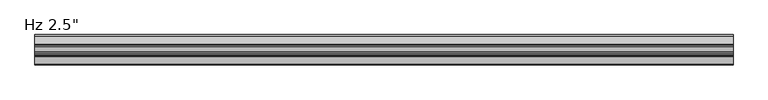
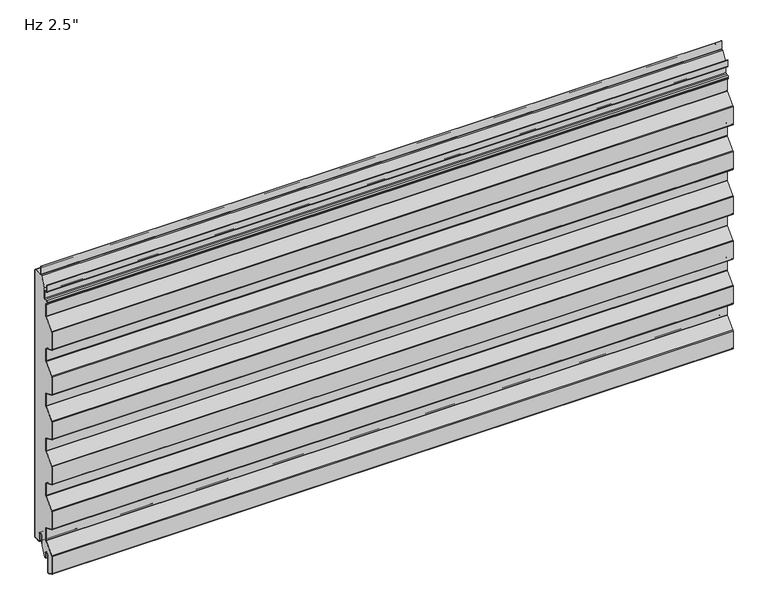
"""IFC4 building model written with IfcOpenShell, lengths in millimetres: plate geometry."""

from ifc_helpers import new_model, si_unit, point, frame, frame_2d, origin, place, context, project, spatial, polyline, circle_curve, trimmed, segment, composite_curve, outline, extrude, source, transform, mapped, element, save


def plate_f76aa271(model_context):
    return source(origin(), model_context, "Body", "SweptSolid", [
        extrude(outline(composite_curve([segment(polyline([(-26.4011912, 19.05), (-26.4011912, -3.1976612), (-36.533822, -23.01875), (-38.6886912, -23.01875), (-38.6886912, -11.90625)]), True, "CONTINUOUS"), segment(trimmed(circle_curve(frame_2d((-43.6574412, -11.90625)), 4.96875), [point((-38.6886912, -11.90625))], [point((-48.6261912, -11.90625))], True, "CARTESIAN"), True, "CONTINUOUS"), segment(polyline([(-48.6261912, -11.90625), (-48.6261912, -48.8194049)]), True, "CONTINUOUS"), segment(trimmed(circle_curve(frame_2d((-50.0074412, -48.8194049)), 1.38125), [point((-48.6261912, -48.8194049))], [point((-50.5666208, -50.0824052))], False, "CARTESIAN"), True, "CONTINUOUS"), segment(polyline([(-50.5666208, -50.0824052), (-61.6779296, -45.1629946)]), True, "CONTINUOUS"), segment(trimmed(circle_curve(frame_2d((-61.11875, -43.8999943)), 1.38125), [point((-61.6779296, -45.1629946))], [point((-62.5, -43.8999943))], False, "CARTESIAN"), True, "CONTINUOUS"), segment(polyline([(-62.5, -43.8999943), (-62.5, -5.0536946)]), True, "CONTINUOUS"), segment(trimmed(circle_curve(frame_2d((-60.4012, -5.0536946)), 2.0988), [point((-62.5, -5.0536946))], [point((-61.9092077, -3.5939431))], False, "CARTESIAN"), True, "CONTINUOUS"), segment(polyline([(-61.9092077, -3.5939431), (-41.7145567, 17.2682996)]), True, "CONTINUOUS"), segment(trimmed(circle_curve(frame_2d((-43.5737, 19.0679503)), 2.5875), [point((-41.7145567, 17.2682996))], [point((-40.9862, 19.0679503))], True, "CARTESIAN"), True, "CONTINUOUS"), segment(polyline([(-40.9862, 19.0679503), (-40.9862, 45.5917981)]), True, "CONTINUOUS"), segment(trimmed(circle_curve(frame_2d((-43.5737, 45.5917981)), 2.5875), [point((-40.9862, 45.5917981))], [point((-42.5261871, 47.9577806))], True, "CARTESIAN"), True, "CONTINUOUS"), segment(polyline([(-42.5261871, 47.9577806), (-61.6779296, 56.4370054)]), True, "CONTINUOUS"), segment(trimmed(circle_curve(frame_2d((-61.11875, 57.7000057)), 1.38125), [point((-61.6779296, 56.4370054))], [point((-62.5, 57.7000057))], False, "CARTESIAN"), True, "CONTINUOUS"), segment(polyline([(-62.5, 57.7000057), (-62.5, 96.8367131)]), True, "CONTINUOUS"), segment(trimmed(circle_curve(frame_2d((-61.11875, 96.8367131)), 1.38125), [point((-62.5, 96.8367131))], [point((-62.1111912, 97.7973962))], False, "CARTESIAN"), True, "CONTINUOUS"), segment(polyline([(-62.1111912, 97.7973962), (-41.7145567, 118.8682996)]), True, "CONTINUOUS"), segment(trimmed(circle_curve(frame_2d((-43.5737, 120.6679503)), 2.5875), [point((-41.7145567, 118.8682996))], [point((-40.9862, 120.6679503))], True, "CARTESIAN"), True, "CONTINUOUS"), segment(polyline([(-40.9862, 120.6679503), (-40.9862, 147.1917981)]), True, "CONTINUOUS"), segment(trimmed(circle_curve(frame_2d((-43.5737, 147.1917981)), 2.5875), [point((-40.9862, 147.1917981))], [point((-42.5261871, 149.5577806))], True, "CARTESIAN"), True, "CONTINUOUS"), segment(polyline([(-42.5261871, 149.5577806), (-61.6779296, 158.0370054)]), True, "CONTINUOUS"), segment(trimmed(circle_curve(frame_2d((-61.11875, 159.3000057)), 1.38125), [point((-61.6779296, 158.0370054))], [point((-62.5, 159.3000057))], False, "CARTESIAN"), True, "CONTINUOUS"), segment(polyline([(-62.5, 159.3000057), (-62.5, 198.4367131)]), True, "CONTINUOUS"), segment(trimmed(circle_curve(frame_2d((-61.11875, 198.4367131)), 1.38125), [point((-62.5, 198.4367131))], [point((-62.1111912, 199.3973962))], False, "CARTESIAN"), True, "CONTINUOUS"), segment(polyline([(-62.1111912, 199.3973962), (-41.7145567, 220.4682996)]), True, "CONTINUOUS"), segment(trimmed(circle_curve(frame_2d((-43.5737, 222.2679503)), 2.5875), [point((-41.7145567, 220.4682996))], [point((-40.9862, 222.2679503))], True, "CARTESIAN"), True, "CONTINUOUS"), segment(polyline([(-40.9862, 222.2679503), (-40.9862, 248.7917981)]), True, "CONTINUOUS"), segment(trimmed(circle_curve(frame_2d((-43.5737, 248.7917981)), 2.5875), [point((-40.9862, 248.7917981))], [point((-42.5261871, 251.1577806))], True, "CARTESIAN"), True, "CONTINUOUS"), segment(polyline([(-42.5261871, 251.1577806), (-61.6779296, 259.6370054)]), True, "CONTINUOUS"), segment(trimmed(circle_curve(frame_2d((-61.11875, 260.9000057)), 1.38125), [point((-61.6779296, 259.6370054))], [point((-62.5, 260.9000057))], False, "CARTESIAN"), True, "CONTINUOUS"), segment(polyline([(-62.5, 260.9000057), (-62.5, 300.0367131)]), True, "CONTINUOUS"), segment(trimmed(circle_curve(frame_2d((-61.11875, 300.0367131)), 1.38125), [point((-62.5, 300.0367131))], [point((-62.1111912, 300.9973962))], False, "CARTESIAN"), True, "CONTINUOUS"), segment(polyline([(-62.1111912, 300.9973962), (-41.7145567, 322.0682996)]), True, "CONTINUOUS"), segment(trimmed(circle_curve(frame_2d((-43.5737, 323.8679503)), 2.5875), [point((-41.7145567, 322.0682996))], [point((-40.9862, 323.8679503))], True, "CARTESIAN"), True, "CONTINUOUS"), segment(polyline([(-40.9862, 323.8679503), (-40.9862, 350.3917981)]), True, "CONTINUOUS"), segment(trimmed(circle_curve(frame_2d((-43.5737, 350.3917981)), 2.5875), [point((-40.9862, 350.3917981))], [point((-42.5261871, 352.7577806))], True, "CARTESIAN"), True, "CONTINUOUS"), segment(polyline([(-42.5261871, 352.7577806), (-61.6779296, 361.2370054)]), True, "CONTINUOUS"), segment(trimmed(circle_curve(frame_2d((-61.11875, 362.5000057)), 1.38125), [point((-61.6779296, 361.2370054))], [point((-62.5, 362.5000057))], False, "CARTESIAN"), True, "CONTINUOUS"), segment(polyline([(-62.5, 362.5000057), (-62.5, 401.6367131)]), True, "CONTINUOUS"), segment(trimmed(circle_curve(frame_2d((-61.11875, 401.6367131)), 1.38125), [point((-62.5, 401.6367131))], [point((-62.1111912, 402.5973962))], False, "CARTESIAN"), True, "CONTINUOUS"), segment(polyline([(-62.1111912, 402.5973962), (-41.7145567, 423.6682996)]), True, "CONTINUOUS"), segment(trimmed(circle_curve(frame_2d((-43.5737, 425.4679503)), 2.5875), [point((-41.7145567, 423.6682996))], [point((-40.9862, 425.4679503))], True, "CARTESIAN"), True, "CONTINUOUS"), segment(polyline([(-40.9862, 425.4679503), (-40.9862, 451.9917981)]), True, "CONTINUOUS"), segment(trimmed(circle_curve(frame_2d((-43.5737, 451.9917981)), 2.5875), [point((-40.9862, 451.9917981))], [point((-42.5261871, 454.3577806))], True, "CARTESIAN"), True, "CONTINUOUS"), segment(polyline([(-42.5261871, 454.3577806), (-61.6779296, 462.8370054)]), True, "CONTINUOUS"), segment(trimmed(circle_curve(frame_2d((-61.11875, 464.1000057)), 1.38125), [point((-61.6779296, 462.8370054))], [point((-62.5, 464.1000057))], False, "CARTESIAN"), True, "CONTINUOUS"), segment(polyline([(-62.5, 464.1000057), (-62.5, 503.2367131)]), True, "CONTINUOUS"), segment(trimmed(circle_curve(frame_2d((-61.11875, 503.2367131)), 1.38125), [point((-62.5, 503.2367131))], [point((-62.1111912, 504.1973962))], False, "CARTESIAN"), True, "CONTINUOUS"), segment(polyline([(-62.1111912, 504.1973962), (-41.7145567, 525.2682996)]), True, "CONTINUOUS"), segment(trimmed(circle_curve(frame_2d((-43.5737, 527.0679503)), 2.5875), [point((-41.7145567, 525.2682996))], [point((-40.9862, 527.0679503))], True, "CARTESIAN"), True, "CONTINUOUS"), segment(polyline([(-40.9862, 527.0679503), (-40.9862, 553.5917981)]), True, "CONTINUOUS"), segment(trimmed(circle_curve(frame_2d((-43.5737, 553.5917981)), 2.5875), [point((-40.9862, 553.5917981))], [point((-42.5261871, 555.9577806))], True, "CARTESIAN"), True, "CONTINUOUS"), segment(polyline([(-42.5261871, 555.9577806), (-44.2166208, 556.7062016)]), True, "CONTINUOUS"), segment(trimmed(circle_curve(frame_2d((-43.6574412, 557.9692019)), 1.38125), [point((-44.2166208, 556.7062016))], [point((-45.0386912, 557.9692019))], False, "CARTESIAN"), True, "CONTINUOUS"), segment(polyline([(-45.0386912, 557.9692019), (-45.0386912, 560.2967085)]), True, "CONTINUOUS"), segment(trimmed(circle_curve(frame_2d((-43.6574412, 560.2967085)), 1.38125), [point((-45.0386912, 560.2967085))], [point((-43.7297302, 561.6760655))], False, "CARTESIAN"), True, "CONTINUOUS"), segment(polyline([(-43.7297302, 561.6760655), (-37.9657719, 561.9781418)]), True, "CONTINUOUS"), segment(trimmed(circle_curve(frame_2d((-38.1011912, 564.5620957)), 2.5875), [point((-37.9657719, 561.9781418))], [point((-35.5136912, 564.5620957))], True, "CARTESIAN"), True, "CONTINUOUS"), segment(polyline([(-35.5136912, 564.5620957), (-35.5136912, 586.9892934), (-24.8719682, 607.80625), (-2.3824412, 607.80625)]), True, "CONTINUOUS"), segment(trimmed(circle_curve(frame_2d((-2.3824412, 606.425)), 1.38125), [point((-2.3824412, 607.80625))], [point((-1.0011912, 606.425))], False, "CARTESIAN"), True, "CONTINUOUS"), segment(polyline([(-1.0011912, 606.425), (-1.0011912, 3.175)]), True, "CONTINUOUS"), segment(trimmed(circle_curve(frame_2d((-2.3824412, 3.175)), 1.38125), [point((-1.0011912, 3.175))], [point((-2.3824412, 1.79375))], False, "CARTESIAN"), True, "CONTINUOUS"), segment(polyline([(-2.3824412, 1.79375), (-15.0824412, 1.79375)]), True, "CONTINUOUS"), segment(trimmed(circle_curve(frame_2d((-15.0824412, 3.175)), 1.38125), [point((-15.0824412, 1.79375))], [point((-16.4636912, 3.175))], False, "CARTESIAN"), True, "CONTINUOUS"), segment(polyline([(-16.4636912, 3.175), (-16.4636912, 19.05)]), True, "CONTINUOUS"), segment(trimmed(circle_curve(frame_2d((-21.4324412, 19.05)), 4.96875), [point((-16.4636912, 19.05))], [point((-26.4011912, 19.05))], True, "CARTESIAN"), True, "CONTINUOUS")], self_intersect=False)), frame((-730.0, 0.0, 0.0), z_axis=(1.0, 0.0, 0.0), x_axis=(0.0, 1.0, 0.0)), (0.0, 0.0, 1.0), 1460.0),
        extrude(outline(composite_curve([segment(polyline([(-25.4, 0.79375), (-26.4, 0.79375), (-26.4, 19.05)]), True, "CONTINUOUS"), segment(trimmed(circle_curve(frame_2d((-21.43125, 19.05)), 4.96875), [point((-26.4, 19.05))], [point((-16.4625, 19.05))], False, "CARTESIAN"), True, "CONTINUOUS"), segment(polyline([(-16.4625, 19.05), (-16.4625, 3.175)]), True, "CONTINUOUS"), segment(trimmed(circle_curve(frame_2d((-15.08125, 3.175)), 1.38125), [point((-16.4625, 3.175))], [point((-15.08125, 1.79375))], True, "CARTESIAN"), True, "CONTINUOUS"), segment(polyline([(-15.08125, 1.79375), (-2.38125, 1.79375)]), True, "CONTINUOUS"), segment(trimmed(circle_curve(frame_2d((-2.38125, 3.175)), 1.38125), [point((-2.38125, 1.79375))], [point((-1.0, 3.175))], True, "CARTESIAN"), True, "CONTINUOUS"), segment(polyline([(-1.0, 3.175), (-1.0, 606.425)]), True, "CONTINUOUS"), segment(trimmed(circle_curve(frame_2d((-2.38125, 606.425)), 1.38125), [point((-1.0, 606.425))], [point((-2.38125, 607.80625))], True, "CARTESIAN"), True, "CONTINUOUS"), segment(polyline([(-2.38125, 607.80625), (-19.446875, 607.80625)]), True, "CONTINUOUS"), segment(trimmed(circle_curve(frame_2d((-19.446875, 610.39375)), 2.5875), [point((-19.446875, 607.80625))], [point((-22.034375, 610.39375))], False, "CARTESIAN"), True, "CONTINUOUS"), segment(polyline([(-22.034375, 610.39375), (-22.034375, 627.85625), (-21.034375, 627.85625), (-21.034375, 610.39375)]), True, "CONTINUOUS"), segment(trimmed(circle_curve(frame_2d((-19.446875, 610.39375)), 1.5875), [point((-21.034375, 610.39375))], [point((-19.446875, 608.80625))], True, "CARTESIAN"), True, "CONTINUOUS"), segment(polyline([(-19.446875, 608.80625), (-2.38125, 608.80625)]), True, "CONTINUOUS"), segment(trimmed(circle_curve(frame_2d((-2.38125, 606.425)), 2.38125), [point((-2.38125, 608.80625))], [point((0.0, 606.425))], False, "CARTESIAN"), True, "CONTINUOUS"), segment(polyline([(0.0, 606.425), (0.0, 3.175)]), True, "CONTINUOUS"), segment(trimmed(circle_curve(frame_2d((-2.38125, 3.175)), 2.38125), [point((0.0, 3.175))], [point((-2.38125, 0.79375))], False, "CARTESIAN"), True, "CONTINUOUS"), segment(polyline([(-2.38125, 0.79375), (-15.08125, 0.79375)]), True, "CONTINUOUS"), segment(trimmed(circle_curve(frame_2d((-15.08125, 3.175)), 2.38125), [point((-15.08125, 0.79375))], [point((-17.4625, 3.175))], False, "CARTESIAN"), True, "CONTINUOUS"), segment(polyline([(-17.4625, 3.175), (-17.4625, 19.05)]), True, "CONTINUOUS"), segment(trimmed(circle_curve(frame_2d((-21.43125, 19.05)), 3.96875), [point((-17.4625, 19.05))], [point((-25.4, 19.05))], True, "CARTESIAN"), True, "CONTINUOUS"), segment(polyline([(-25.4, 19.05), (-25.4, 0.79375)]), True, "CONTINUOUS")], self_intersect=False)), frame((-730.0, 0.0, 0.0), z_axis=(1.0, 0.0, 0.0), x_axis=(0.0, 1.0, 0.0)), (0.0, 0.0, 1.0), 1460.0),
        extrude(outline(composite_curve([segment(polyline([(-47.6261912, -11.90625), (-47.6261912, -48.8194049)]), True, "CONTINUOUS"), segment(trimmed(circle_curve(frame_2d((-50.0074412, -48.8194049)), 2.38125), [point((-47.6261912, -48.8194049))], [point((-50.9714567, -50.9967946))], False, "CARTESIAN"), True, "CONTINUOUS"), segment(polyline([(-50.9714567, -50.9967946), (-62.0827655, -46.0773839)]), True, "CONTINUOUS"), segment(trimmed(circle_curve(frame_2d((-61.11875, -43.8999943)), 2.38125), [point((-62.0827655, -46.0773839))], [point((-63.5, -43.8999943))], False, "CARTESIAN"), True, "CONTINUOUS"), segment(polyline([(-63.5, -43.8999943), (-63.5, -5.0536946)]), True, "CONTINUOUS"), segment(trimmed(circle_curve(frame_2d((-60.4012, -5.0536946)), 3.0988), [point((-63.5, -5.0536946))], [point((-62.6277172, -2.8984259))], False, "CARTESIAN"), True, "CONTINUOUS"), segment(polyline([(-62.6277172, -2.8984259), (-42.4330662, 17.9638168)]), True, "CONTINUOUS"), segment(trimmed(circle_curve(frame_2d((-43.5737, 19.0679503)), 1.5875), [point((-42.4330662, 17.9638168))], [point((-41.9862, 19.0679503))], True, "CARTESIAN"), True, "CONTINUOUS"), segment(polyline([(-41.9862, 19.0679503), (-41.9862, 45.5917981)]), True, "CONTINUOUS"), segment(trimmed(circle_curve(frame_2d((-43.5737, 45.5917981)), 1.5875), [point((-41.9862, 45.5917981))], [point((-42.931023, 47.0433912))], True, "CARTESIAN"), True, "CONTINUOUS"), segment(polyline([(-42.931023, 47.0433912), (-62.0827655, 55.5226161)]), True, "CONTINUOUS"), segment(trimmed(circle_curve(frame_2d((-61.11875, 57.7000057)), 2.38125), [point((-62.0827655, 55.5226161))], [point((-63.5, 57.7000057))], False, "CARTESIAN"), True, "CONTINUOUS"), segment(polyline([(-63.5, 57.7000057), (-63.5, 96.8367131)]), True, "CONTINUOUS"), segment(trimmed(circle_curve(frame_2d((-61.11875, 96.8367131)), 2.38125), [point((-63.5, 96.8367131))], [point((-62.8297007, 98.4929134))], False, "CARTESIAN"), True, "CONTINUOUS"), segment(polyline([(-62.8297007, 98.4929134), (-42.4330662, 119.5638168)]), True, "CONTINUOUS"), segment(trimmed(circle_curve(frame_2d((-43.5737, 120.6679503)), 1.5875), [point((-42.4330662, 119.5638168))], [point((-41.9862, 120.6679503))], True, "CARTESIAN"), True, "CONTINUOUS"), segment(polyline([(-41.9862, 120.6679503), (-41.9862, 147.1917981)]), True, "CONTINUOUS"), segment(trimmed(circle_curve(frame_2d((-43.5737, 147.1917981)), 1.5875), [point((-41.9862, 147.1917981))], [point((-42.931023, 148.6433912))], True, "CARTESIAN"), True, "CONTINUOUS"), segment(polyline([(-42.931023, 148.6433912), (-62.0827655, 157.1226161)]), True, "CONTINUOUS"), segment(trimmed(circle_curve(frame_2d((-61.11875, 159.3000057)), 2.38125), [point((-62.0827655, 157.1226161))], [point((-63.5, 159.3000057))], False, "CARTESIAN"), True, "CONTINUOUS"), segment(polyline([(-63.5, 159.3000057), (-63.5, 198.4367131)]), True, "CONTINUOUS"), segment(trimmed(circle_curve(frame_2d((-61.11875, 198.4367131)), 2.38125), [point((-63.5, 198.4367131))], [point((-62.8297007, 200.0929134))], False, "CARTESIAN"), True, "CONTINUOUS"), segment(polyline([(-62.8297007, 200.0929134), (-42.4330662, 221.1638168)]), True, "CONTINUOUS"), segment(trimmed(circle_curve(frame_2d((-43.5737, 222.2679503)), 1.5875), [point((-42.4330662, 221.1638168))], [point((-41.9862, 222.2679503))], True, "CARTESIAN"), True, "CONTINUOUS"), segment(polyline([(-41.9862, 222.2679503), (-41.9862, 248.7917981)]), True, "CONTINUOUS"), segment(trimmed(circle_curve(frame_2d((-43.5737, 248.7917981)), 1.5875), [point((-41.9862, 248.7917981))], [point((-42.931023, 250.2433912))], True, "CARTESIAN"), True, "CONTINUOUS"), segment(polyline([(-42.931023, 250.2433912), (-62.0827655, 258.7226161)]), True, "CONTINUOUS"), segment(trimmed(circle_curve(frame_2d((-61.11875, 260.9000057)), 2.38125), [point((-62.0827655, 258.7226161))], [point((-63.5, 260.9000057))], False, "CARTESIAN"), True, "CONTINUOUS"), segment(polyline([(-63.5, 260.9000057), (-63.5, 300.0367131)]), True, "CONTINUOUS"), segment(trimmed(circle_curve(frame_2d((-61.11875, 300.0367131)), 2.38125), [point((-63.5, 300.0367131))], [point((-62.8297007, 301.6929134))], False, "CARTESIAN"), True, "CONTINUOUS"), segment(polyline([(-62.8297007, 301.6929134), (-42.4330662, 322.7638168)]), True, "CONTINUOUS"), segment(trimmed(circle_curve(frame_2d((-43.5737, 323.8679503)), 1.5875), [point((-42.4330662, 322.7638168))], [point((-41.9862, 323.8679503))], True, "CARTESIAN"), True, "CONTINUOUS"), segment(polyline([(-41.9862, 323.8679503), (-41.9862, 350.3917981)]), True, "CONTINUOUS"), segment(trimmed(circle_curve(frame_2d((-43.5737, 350.3917981)), 1.5875), [point((-41.9862, 350.3917981))], [point((-42.931023, 351.8433912))], True, "CARTESIAN"), True, "CONTINUOUS"), segment(polyline([(-42.931023, 351.8433912), (-62.0827655, 360.3226161)]), True, "CONTINUOUS"), segment(trimmed(circle_curve(frame_2d((-61.11875, 362.5000057)), 2.38125), [point((-62.0827655, 360.3226161))], [point((-63.5, 362.5000057))], False, "CARTESIAN"), True, "CONTINUOUS"), segment(polyline([(-63.5, 362.5000057), (-63.5, 401.6367131)]), True, "CONTINUOUS"), segment(trimmed(circle_curve(frame_2d((-61.11875, 401.6367131)), 2.38125), [point((-63.5, 401.6367131))], [point((-62.8297007, 403.2929134))], False, "CARTESIAN"), True, "CONTINUOUS"), segment(polyline([(-62.8297007, 403.2929134), (-42.4330662, 424.3638168)]), True, "CONTINUOUS"), segment(trimmed(circle_curve(frame_2d((-43.5737, 425.4679503)), 1.5875), [point((-42.4330662, 424.3638168))], [point((-41.9862, 425.4679503))], True, "CARTESIAN"), True, "CONTINUOUS"), segment(polyline([(-41.9862, 425.4679503), (-41.9862, 451.9917981)]), True, "CONTINUOUS"), segment(trimmed(circle_curve(frame_2d((-43.5737, 451.9917981)), 1.5875), [point((-41.9862, 451.9917981))], [point((-42.931023, 453.4433912))], True, "CARTESIAN"), True, "CONTINUOUS"), segment(polyline([(-42.931023, 453.4433912), (-62.0827655, 461.9226161)]), True, "CONTINUOUS"), segment(trimmed(circle_curve(frame_2d((-61.11875, 464.1000057)), 2.38125), [point((-62.0827655, 461.9226161))], [point((-63.5, 464.1000057))], False, "CARTESIAN"), True, "CONTINUOUS"), segment(polyline([(-63.5, 464.1000057), (-63.5, 503.2367131)]), True, "CONTINUOUS"), segment(trimmed(circle_curve(frame_2d((-61.11875, 503.2367131)), 2.38125), [point((-63.5, 503.2367131))], [point((-62.8297007, 504.8929134))], False, "CARTESIAN"), True, "CONTINUOUS"), segment(polyline([(-62.8297007, 504.8929134), (-42.4330662, 525.9638168)]), True, "CONTINUOUS"), segment(trimmed(circle_curve(frame_2d((-43.5737, 527.0679503)), 1.5875), [point((-42.4330662, 525.9638168))], [point((-41.9862, 527.0679503))], True, "CARTESIAN"), True, "CONTINUOUS"), segment(polyline([(-41.9862, 527.0679503), (-41.9862, 553.5917981)]), True, "CONTINUOUS"), segment(trimmed(circle_curve(frame_2d((-43.5737, 553.5917981)), 1.5875), [point((-41.9862, 553.5917981))], [point((-42.931023, 555.0433912))], True, "CARTESIAN"), True, "CONTINUOUS"), segment(polyline([(-42.931023, 555.0433912), (-44.6214567, 555.7918123)]), True, "CONTINUOUS"), segment(trimmed(circle_curve(frame_2d((-43.6574412, 557.9692019)), 2.38125), [point((-44.6214567, 555.7918123))], [point((-46.0386912, 557.9692019))], False, "CARTESIAN"), True, "CONTINUOUS"), segment(polyline([(-46.0386912, 557.9692019), (-46.0386912, 560.2967085)]), True, "CONTINUOUS"), segment(trimmed(circle_curve(frame_2d((-43.6574412, 560.2967085)), 2.38125), [point((-46.0386912, 560.2967085))], [point((-43.7820662, 562.6746951))], False, "CARTESIAN"), True, "CONTINUOUS"), segment(polyline([(-43.7820662, 562.6746951), (-38.0181078, 562.9767713)]), True, "CONTINUOUS"), segment(trimmed(circle_curve(frame_2d((-38.1011912, 564.5620957)), 1.5875), [point((-38.0181078, 562.9767713))], [point((-36.5136912, 564.5620957))], True, "CARTESIAN"), True, "CONTINUOUS"), segment(polyline([(-36.5136912, 564.5620957), (-36.5136912, 579.4375)]), True, "CONTINUOUS"), segment(trimmed(circle_curve(frame_2d((-38.1011912, 579.4375)), 1.5875), [point((-36.5136912, 579.4375))], [point((-38.1011912, 581.025))], True, "CARTESIAN"), True, "CONTINUOUS"), segment(polyline([(-38.1011912, 581.025), (-41.6730662, 581.025)]), True, "CONTINUOUS"), segment(trimmed(circle_curve(frame_2d((-41.6730662, 583.40625)), 2.38125), [point((-41.6730662, 581.025))], [point((-44.0543162, 583.40625))], False, "CARTESIAN"), True, "CONTINUOUS"), segment(polyline([(-44.0543162, 583.40625), (-44.0543162, 597.69375), (-43.0543162, 597.69375), (-43.0543162, 583.40625)]), True, "CONTINUOUS"), segment(trimmed(circle_curve(frame_2d((-41.6730662, 583.40625)), 1.38125), [point((-43.0543162, 583.40625))], [point((-41.6730662, 582.025))], True, "CARTESIAN"), True, "CONTINUOUS"), segment(polyline([(-41.6730662, 582.025), (-38.1011912, 582.025)]), True, "CONTINUOUS"), segment(trimmed(circle_curve(frame_2d((-38.1011912, 579.4375)), 2.5875), [point((-38.1011912, 582.025))], [point((-35.5136912, 579.4375))], False, "CARTESIAN"), True, "CONTINUOUS"), segment(polyline([(-35.5136912, 579.4375), (-35.5136912, 564.5620957)]), True, "CONTINUOUS"), segment(trimmed(circle_curve(frame_2d((-38.1011912, 564.5620957)), 2.5875), [point((-35.5136912, 564.5620957))], [point((-37.9657719, 561.9781418))], False, "CARTESIAN"), True, "CONTINUOUS"), segment(polyline([(-37.9657719, 561.9781418), (-43.7297302, 561.6760655)]), True, "CONTINUOUS"), segment(trimmed(circle_curve(frame_2d((-43.6574412, 560.2967085)), 1.38125), [point((-43.7297302, 561.6760655))], [point((-45.0386912, 560.2967085))], True, "CARTESIAN"), True, "CONTINUOUS"), segment(polyline([(-45.0386912, 560.2967085), (-45.0386912, 557.9692019)]), True, "CONTINUOUS"), segment(trimmed(circle_curve(frame_2d((-43.6574412, 557.9692019)), 1.38125), [point((-45.0386912, 557.9692019))], [point((-44.2166208, 556.7062016))], True, "CARTESIAN"), True, "CONTINUOUS"), segment(polyline([(-44.2166208, 556.7062016), (-42.5261871, 555.9577806)]), True, "CONTINUOUS"), segment(trimmed(circle_curve(frame_2d((-43.5737, 553.5917981)), 2.5875), [point((-42.5261871, 555.9577806))], [point((-40.9862, 553.5917981))], False, "CARTESIAN"), True, "CONTINUOUS"), segment(polyline([(-40.9862, 553.5917981), (-40.9862, 527.0679503)]), True, "CONTINUOUS"), segment(trimmed(circle_curve(frame_2d((-43.5737, 527.0679503)), 2.5875), [point((-40.9862, 527.0679503))], [point((-41.7145567, 525.2682996))], False, "CARTESIAN"), True, "CONTINUOUS"), segment(polyline([(-41.7145567, 525.2682996), (-62.1111912, 504.1973962)]), True, "CONTINUOUS"), segment(trimmed(circle_curve(frame_2d((-61.11875, 503.2367131)), 1.38125), [point((-62.1111912, 504.1973962))], [point((-62.5, 503.2367131))], True, "CARTESIAN"), True, "CONTINUOUS"), segment(polyline([(-62.5, 503.2367131), (-62.5, 464.1000057)]), True, "CONTINUOUS"), segment(trimmed(circle_curve(frame_2d((-61.11875, 464.1000057)), 1.38125), [point((-62.5, 464.1000057))], [point((-61.6779296, 462.8370054))], True, "CARTESIAN"), True, "CONTINUOUS"), segment(polyline([(-61.6779296, 462.8370054), (-42.5261871, 454.3577806)]), True, "CONTINUOUS"), segment(trimmed(circle_curve(frame_2d((-43.5737, 451.9917981)), 2.5875), [point((-42.5261871, 454.3577806))], [point((-40.9862, 451.9917981))], False, "CARTESIAN"), True, "CONTINUOUS"), segment(polyline([(-40.9862, 451.9917981), (-40.9862, 425.4679503)]), True, "CONTINUOUS"), segment(trimmed(circle_curve(frame_2d((-43.5737, 425.4679503)), 2.5875), [point((-40.9862, 425.4679503))], [point((-41.7145567, 423.6682996))], False, "CARTESIAN"), True, "CONTINUOUS"), segment(polyline([(-41.7145567, 423.6682996), (-62.1111912, 402.5973962)]), True, "CONTINUOUS"), segment(trimmed(circle_curve(frame_2d((-61.11875, 401.6367131)), 1.38125), [point((-62.1111912, 402.5973962))], [point((-62.5, 401.6367131))], True, "CARTESIAN"), True, "CONTINUOUS"), segment(polyline([(-62.5, 401.6367131), (-62.5, 362.5000057)]), True, "CONTINUOUS"), segment(trimmed(circle_curve(frame_2d((-61.11875, 362.5000057)), 1.38125), [point((-62.5, 362.5000057))], [point((-61.6779296, 361.2370054))], True, "CARTESIAN"), True, "CONTINUOUS"), segment(polyline([(-61.6779296, 361.2370054), (-42.5261871, 352.7577806)]), True, "CONTINUOUS"), segment(trimmed(circle_curve(frame_2d((-43.5737, 350.3917981)), 2.5875), [point((-42.5261871, 352.7577806))], [point((-40.9862, 350.3917981))], False, "CARTESIAN"), True, "CONTINUOUS"), segment(polyline([(-40.9862, 350.3917981), (-40.9862, 323.8679503)]), True, "CONTINUOUS"), segment(trimmed(circle_curve(frame_2d((-43.5737, 323.8679503)), 2.5875), [point((-40.9862, 323.8679503))], [point((-41.7145567, 322.0682996))], False, "CARTESIAN"), True, "CONTINUOUS"), segment(polyline([(-41.7145567, 322.0682996), (-62.1111912, 300.9973962)]), True, "CONTINUOUS"), segment(trimmed(circle_curve(frame_2d((-61.11875, 300.0367131)), 1.38125), [point((-62.1111912, 300.9973962))], [point((-62.5, 300.0367131))], True, "CARTESIAN"), True, "CONTINUOUS"), segment(polyline([(-62.5, 300.0367131), (-62.5, 260.9000057)]), True, "CONTINUOUS"), segment(trimmed(circle_curve(frame_2d((-61.11875, 260.9000057)), 1.38125), [point((-62.5, 260.9000057))], [point((-61.6779296, 259.6370054))], True, "CARTESIAN"), True, "CONTINUOUS"), segment(polyline([(-61.6779296, 259.6370054), (-42.5261871, 251.1577806)]), True, "CONTINUOUS"), segment(trimmed(circle_curve(frame_2d((-43.5737, 248.7917981)), 2.5875), [point((-42.5261871, 251.1577806))], [point((-40.9862, 248.7917981))], False, "CARTESIAN"), True, "CONTINUOUS"), segment(polyline([(-40.9862, 248.7917981), (-40.9862, 222.2679503)]), True, "CONTINUOUS"), segment(trimmed(circle_curve(frame_2d((-43.5737, 222.2679503)), 2.5875), [point((-40.9862, 222.2679503))], [point((-41.7145567, 220.4682996))], False, "CARTESIAN"), True, "CONTINUOUS"), segment(polyline([(-41.7145567, 220.4682996), (-62.1111912, 199.3973962)]), True, "CONTINUOUS"), segment(trimmed(circle_curve(frame_2d((-61.11875, 198.4367131)), 1.38125), [point((-62.1111912, 199.3973962))], [point((-62.5, 198.4367131))], True, "CARTESIAN"), True, "CONTINUOUS"), segment(polyline([(-62.5, 198.4367131), (-62.5, 159.3000057)]), True, "CONTINUOUS"), segment(trimmed(circle_curve(frame_2d((-61.11875, 159.3000057)), 1.38125), [point((-62.5, 159.3000057))], [point((-61.6779296, 158.0370054))], True, "CARTESIAN"), True, "CONTINUOUS"), segment(polyline([(-61.6779296, 158.0370054), (-42.5261871, 149.5577806)]), True, "CONTINUOUS"), segment(trimmed(circle_curve(frame_2d((-43.5737, 147.1917981)), 2.5875), [point((-42.5261871, 149.5577806))], [point((-40.9862, 147.1917981))], False, "CARTESIAN"), True, "CONTINUOUS"), segment(polyline([(-40.9862, 147.1917981), (-40.9862, 120.6679503)]), True, "CONTINUOUS"), segment(trimmed(circle_curve(frame_2d((-43.5737, 120.6679503)), 2.5875), [point((-40.9862, 120.6679503))], [point((-41.7145567, 118.8682996))], False, "CARTESIAN"), True, "CONTINUOUS"), segment(polyline([(-41.7145567, 118.8682996), (-62.1111912, 97.7973962)]), True, "CONTINUOUS"), segment(trimmed(circle_curve(frame_2d((-61.11875, 96.8367131)), 1.38125), [point((-62.1111912, 97.7973962))], [point((-62.5, 96.8367131))], True, "CARTESIAN"), True, "CONTINUOUS"), segment(polyline([(-62.5, 96.8367131), (-62.5, 57.7000057)]), True, "CONTINUOUS"), segment(trimmed(circle_curve(frame_2d((-61.11875, 57.7000057)), 1.38125), [point((-62.5, 57.7000057))], [point((-61.6779296, 56.4370054))], True, "CARTESIAN"), True, "CONTINUOUS"), segment(polyline([(-61.6779296, 56.4370054), (-42.5261871, 47.9577806)]), True, "CONTINUOUS"), segment(trimmed(circle_curve(frame_2d((-43.5737, 45.5917981)), 2.5875), [point((-42.5261871, 47.9577806))], [point((-40.9862, 45.5917981))], False, "CARTESIAN"), True, "CONTINUOUS"), segment(polyline([(-40.9862, 45.5917981), (-40.9862, 19.0679503)]), True, "CONTINUOUS"), segment(trimmed(circle_curve(frame_2d((-43.5737, 19.0679503)), 2.5875), [point((-40.9862, 19.0679503))], [point((-41.7145567, 17.2682996))], False, "CARTESIAN"), True, "CONTINUOUS"), segment(polyline([(-41.7145567, 17.2682996), (-61.9092077, -3.5939431)]), True, "CONTINUOUS"), segment(trimmed(circle_curve(frame_2d((-60.4012, -5.0536946)), 2.0988), [point((-61.9092077, -3.5939431))], [point((-62.5, -5.0536946))], True, "CARTESIAN"), True, "CONTINUOUS"), segment(polyline([(-62.5, -5.0536946), (-62.5, -43.8999943)]), True, "CONTINUOUS"), segment(trimmed(circle_curve(frame_2d((-61.11875, -43.8999943)), 1.38125), [point((-62.5, -43.8999943))], [point((-61.6779296, -45.1629946))], True, "CARTESIAN"), True, "CONTINUOUS"), segment(polyline([(-61.6779296, -45.1629946), (-50.5666208, -50.0824052)]), True, "CONTINUOUS"), segment(trimmed(circle_curve(frame_2d((-50.0074412, -48.8194049)), 1.38125), [point((-50.5666208, -50.0824052))], [point((-48.6261912, -48.8194049))], True, "CARTESIAN"), True, "CONTINUOUS"), segment(polyline([(-48.6261912, -48.8194049), (-48.6261912, -11.90625)]), True, "CONTINUOUS"), segment(trimmed(circle_curve(frame_2d((-43.6574412, -11.90625)), 4.96875), [point((-48.6261912, -11.90625))], [point((-38.6886912, -11.90625))], False, "CARTESIAN"), True, "CONTINUOUS"), segment(polyline([(-38.6886912, -11.90625), (-38.6886912, -23.01875), (-39.6886912, -23.01875), (-39.6886912, -11.90625)]), True, "CONTINUOUS"), segment(trimmed(circle_curve(frame_2d((-43.6574412, -11.90625)), 3.96875), [point((-39.6886912, -11.90625))], [point((-47.6261912, -11.90625))], True, "CARTESIAN"), True, "CONTINUOUS")], self_intersect=False)), frame((-730.0, 0.0, 0.0), z_axis=(1.0, 0.0, 0.0), x_axis=(0.0, 1.0, 0.0)), (0.0, 0.0, 1.0), 1460.0),
    ])


if __name__ == "__main__":
    model = new_model("IFC4")
    model_context = context("Model", 3, world=origin())
    ifc_project = project(units=[si_unit("LENGTHUNIT", "METRE", prefix="MILLI")], contexts=[model_context])
    site = spatial("IfcSite", under=ifc_project)
    building = spatial("IfcBuilding", under=site)
    placement = place(None, origin())
    plate_shape = plate_f76aa271(model_context)
    element("IfcPlate", 1, ObjectType="KIP-24-DWR-R19-CP-Hz-S : Hz 2.5\"", at=placement, inside=building, context=model_context, shape_type="MappedRepresentation", body=[
        mapped(plate_shape, transform((0.0, 0.0, 0.0), x_axis=(1.0, 0.0, 0.0), y_axis=(0.0, 1.0, 0.0), z_axis=(0.0, 0.0, 1.0))),
    ])
    save(model, "model.ifc")
